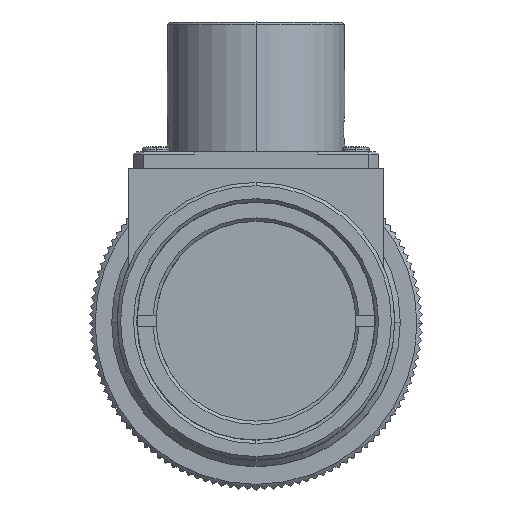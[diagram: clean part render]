
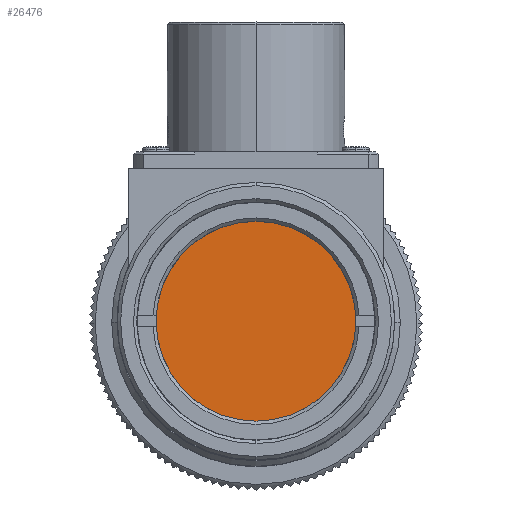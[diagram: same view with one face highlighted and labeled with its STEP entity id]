
A CAD part, top view. The second image highlights one B-rep face of the part: STEP entity #26476.
In plain terms, the highlighted planar face has unit normal (0, 0, 1).
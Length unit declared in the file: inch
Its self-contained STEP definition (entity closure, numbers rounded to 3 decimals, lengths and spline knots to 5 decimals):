
#1359 = EDGE_LOOP ( 'NONE', ( #5588, #5589 ) ) ;
#3254 = VERTEX_POINT ( 'NONE', #8665 ) ;
#3261 = VERTEX_POINT ( 'NONE', #8672 ) ;
#5588 = ORIENTED_EDGE ( 'NONE', *, *, #25512, .T. ) ;
#5589 = ORIENTED_EDGE ( 'NONE', *, *, #25457, .T. ) ;
#8665 = CARTESIAN_POINT ( 'NONE',  ( 0.36614, 0., 1.65901 ) ) ;
#8672 = CARTESIAN_POINT ( 'NONE',  ( -0.36614, 0., 1.65901 ) ) ;
#10378 = AXIS2_PLACEMENT_3D ( 'NONE', #23635, #23642, #23643 ) ;
#16419 = CARTESIAN_POINT ( 'NONE',  ( 0., 0., 1.65901 ) ) ;
#16420 = DIRECTION ( 'NONE',  ( 0., 0., 1. ) ) ;
#16421 = DIRECTION ( 'NONE',  ( 1., 0., 0. ) ) ;
#16626 = CARTESIAN_POINT ( 'NONE',  ( 0., 0., 1.65901 ) ) ;
#16627 = DIRECTION ( 'NONE',  ( 0., 0., 1. ) ) ;
#16628 = DIRECTION ( 'NONE',  ( 1., 0., 0. ) ) ;
#22432 = CIRCLE ( 'NONE', #22443, 0.36614 ) ;
#22443 = AXIS2_PLACEMENT_3D ( 'NONE', #16626, #16627, #16628 ) ;
#22589 = AXIS2_PLACEMENT_3D ( 'NONE', #16419, #16420, #16421 ) ;
#22592 = CIRCLE ( 'NONE', #22589, 0.36614 ) ;
#23635 = CARTESIAN_POINT ( 'NONE',  ( 0., 0., 1.65901 ) ) ;
#23638 = FACE_OUTER_BOUND ( 'NONE', #1359, .T. ) ;
#23639 = PLANE ( 'NONE',  #10378 ) ;
#23642 = DIRECTION ( 'NONE',  ( 0., 0., -1. ) ) ;
#23643 = DIRECTION ( 'NONE',  ( -1., 0., 0. ) ) ;
#25457 = EDGE_CURVE ( 'NONE', #3254, #3261, #22592, .T. ) ;
#25512 = EDGE_CURVE ( 'NONE', #3261, #3254, #22432, .T. ) ;
#26476 = ADVANCED_FACE ( 'NONE', ( #23638 ), #23639, .F. ) ;
